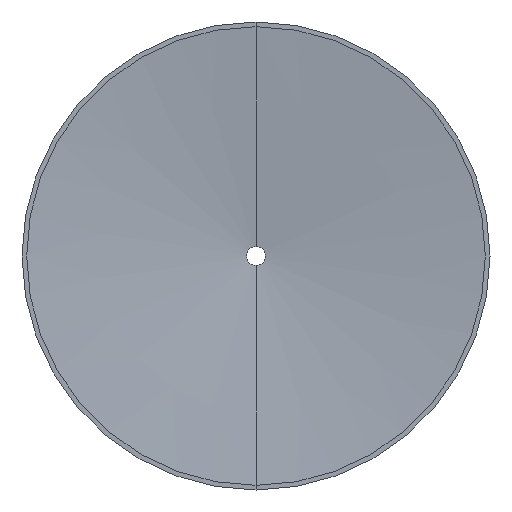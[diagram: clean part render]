
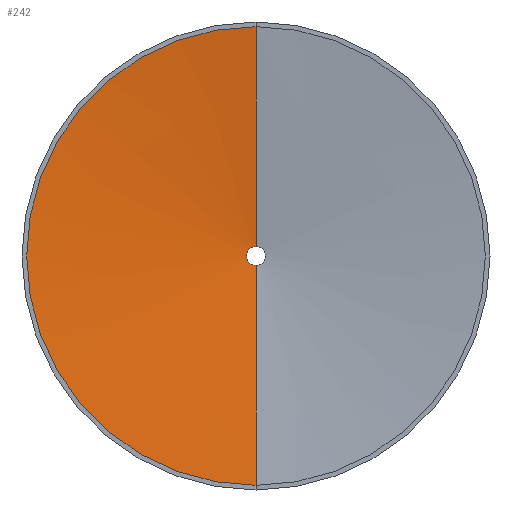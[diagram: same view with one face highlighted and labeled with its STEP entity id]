
A CAD part, front view. The second image highlights one B-rep face of the part: STEP entity #242.
In plain terms, the highlighted conical face has half-angle 84 degrees and reference radius 1 mm.
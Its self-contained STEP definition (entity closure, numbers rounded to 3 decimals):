
#15 = DIRECTION ( 'NONE',  ( 0., 1., 0. ) ) ;
#28 = AXIS2_PLACEMENT_3D ( 'NONE', #275, #296, #481 ) ;
#78 = VECTOR ( 'NONE', #340, 1000. ) ;
#93 = EDGE_CURVE ( 'NONE', #522, #329, #174, .T. ) ;
#108 = DIRECTION ( 'NONE',  ( 0., 0., -1. ) ) ;
#124 = ORIENTED_EDGE ( 'NONE', *, *, #190, .F. ) ;
#132 = LINE ( 'NONE', #402, #78 ) ;
#156 = DIRECTION ( 'NONE',  ( 0., -0.105, -0.995 ) ) ;
#159 = ORIENTED_EDGE ( 'NONE', *, *, #312, .F. ) ;
#173 = DIRECTION ( 'NONE',  ( 0., -1., 0. ) ) ;
#174 = CIRCLE ( 'NONE', #28, 1. ) ;
#190 = EDGE_CURVE ( 'NONE', #259, #276, #196, .T. ) ;
#196 = CIRCLE ( 'NONE', #326, 24.5 ) ;
#225 = CARTESIAN_POINT ( 'NONE',  ( 0., 0., 0. ) ) ;
#239 = VECTOR ( 'NONE', #156, 1000. ) ;
#242 = ADVANCED_FACE ( 'NONE', ( #507 ), #245, .F. ) ;
#245 = CONICAL_SURFACE ( 'NONE', #307, 1., 1.466 ) ;
#259 = VERTEX_POINT ( 'NONE', #266 ) ;
#266 = CARTESIAN_POINT ( 'NONE',  ( 0., 0., -24.5 ) ) ;
#275 = CARTESIAN_POINT ( 'NONE',  ( 0., 2.47, 0. ) ) ;
#276 = VERTEX_POINT ( 'NONE', #456 ) ;
#287 = ORIENTED_EDGE ( 'NONE', *, *, #422, .T. ) ;
#296 = DIRECTION ( 'NONE',  ( 0., -1., 0. ) ) ;
#302 = CARTESIAN_POINT ( 'NONE',  ( 0., 2.47, 1. ) ) ;
#307 = AXIS2_PLACEMENT_3D ( 'NONE', #408, #173, #498 ) ;
#312 = EDGE_CURVE ( 'NONE', #329, #259, #371, .T. ) ;
#326 = AXIS2_PLACEMENT_3D ( 'NONE', #225, #15, #108 ) ;
#329 = VERTEX_POINT ( 'NONE', #523 ) ;
#337 = CARTESIAN_POINT ( 'NONE',  ( 0., 2.47, -1. ) ) ;
#340 = DIRECTION ( 'NONE',  ( 0., -0.105, 0.995 ) ) ;
#371 = LINE ( 'NONE', #337, #239 ) ;
#373 = EDGE_LOOP ( 'NONE', ( #374, #287, #124, #159 ) ) ;
#374 = ORIENTED_EDGE ( 'NONE', *, *, #93, .F. ) ;
#402 = CARTESIAN_POINT ( 'NONE',  ( 0., 2.47, 1. ) ) ;
#408 = CARTESIAN_POINT ( 'NONE',  ( 0., 2.47, 0. ) ) ;
#422 = EDGE_CURVE ( 'NONE', #522, #276, #132, .T. ) ;
#456 = CARTESIAN_POINT ( 'NONE',  ( 0., 0., 24.5 ) ) ;
#481 = DIRECTION ( 'NONE',  ( 0., 0., -1. ) ) ;
#498 = DIRECTION ( 'NONE',  ( 0., 0., -1. ) ) ;
#507 = FACE_OUTER_BOUND ( 'NONE', #373, .T. ) ;
#522 = VERTEX_POINT ( 'NONE', #302 ) ;
#523 = CARTESIAN_POINT ( 'NONE',  ( 0., 2.47, -1. ) ) ;
